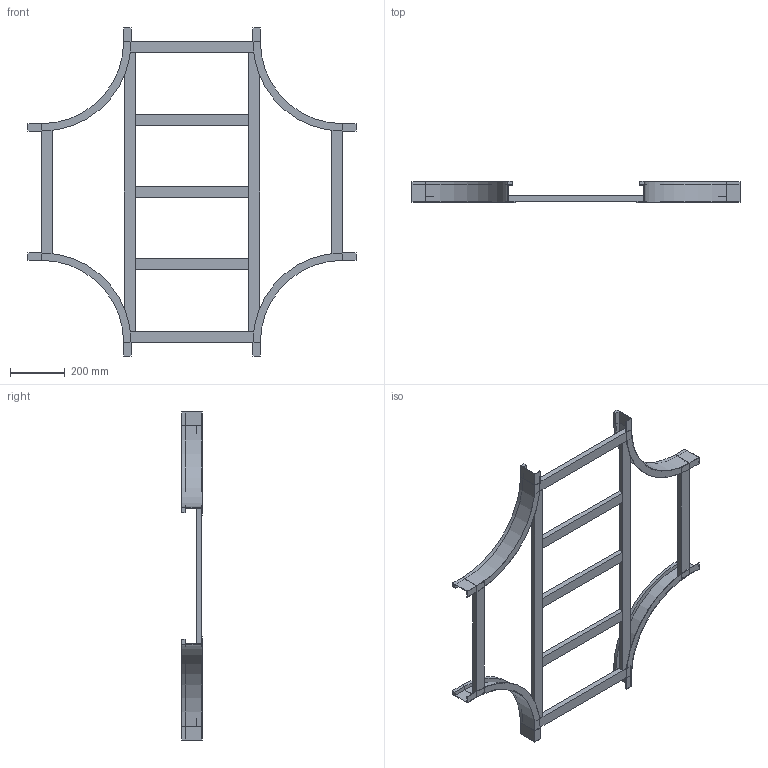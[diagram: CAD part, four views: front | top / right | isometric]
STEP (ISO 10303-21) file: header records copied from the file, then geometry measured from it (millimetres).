
FILE_DESCRIPTION (( 'STEP AP214' ), '1' );
FILE_NAME ('B2_17B3C500.step', '2025-02-21T15:59:12', ( '' ), ( '' ), 'SwSTEP 2.0', 'SolidWorks 2023', '' );
FILE_SCHEMA (( 'AUTOMOTIVE_DESIGN' ));
Length unit declared in the file: millimetre
Products named in the file (5): TRAVERSINO_INTERMEDIO_R300+500; B2_TRAVERSINO_LONG._R300+500; B2_17B3C500; TRAVERSINO_500; B2_LONGH.INTERNO 90°_H75_R300
Assembly tree (13 placements, depth 2):
  B2_17B3C500
    B2_LONGH.INTERNO 90°_H75_R300  x4
    TRAVERSINO_500  x4
    B2_TRAVERSINO_LONG._R300+500  x2
    TRAVERSINO_INTERMEDIO_R300+500  x3
Bounding box: 1200 x 75 x 1200 mm (x, y, z)
Volume: 5179534.1 mm3; surface area: 1203326.6 mm2
Topology: 13 solids, 13 shells, 158 faces, 332 edges, 200 vertices
Faces by surface type: plane 142, cylinder 16
Entity records: 1362 total; most frequent: DIRECTION 220, CARTESIAN_POINT 208, ORIENTED_EDGE 184, EDGE_CURVE 92, LINE 84, VECTOR 84, AXIS2_PLACEMENT_3D 68, VERTEX_POINT 56
